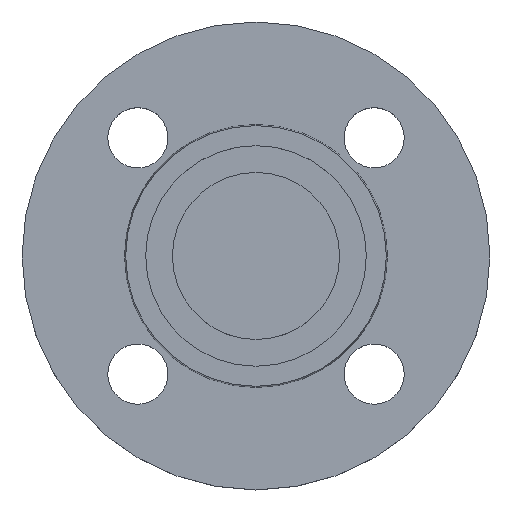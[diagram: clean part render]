
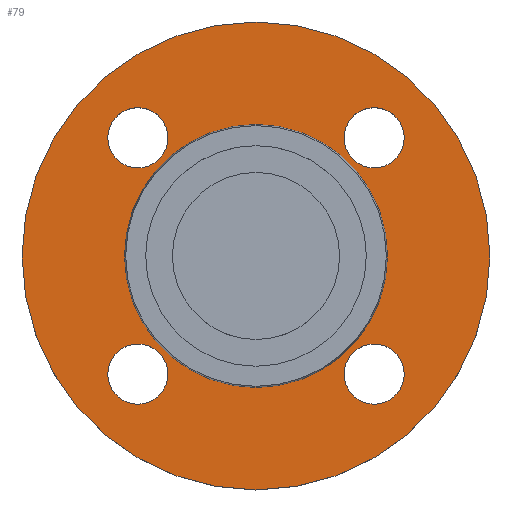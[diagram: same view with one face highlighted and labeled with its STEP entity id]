
A CAD part, top view. The second image highlights one B-rep face of the part: STEP entity #79.
In plain terms, the highlighted planar face has unit normal (0, 0, 1).
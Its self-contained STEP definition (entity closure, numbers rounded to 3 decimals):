
#20 = CARTESIAN_POINT ( 'NONE',  ( 39.353, 0., -2. ) ) ;
#22 = EDGE_LOOP ( 'NONE', ( #582, #94 ) ) ;
#25 = EDGE_CURVE ( 'NONE', #629, #243, #330, .T. ) ;
#26 = CARTESIAN_POINT ( 'NONE',  ( -70., 0., -2. ) ) ;
#28 = CIRCLE ( 'NONE', #434, 9. ) ;
#33 = ORIENTED_EDGE ( 'NONE', *, *, #673, .F. ) ;
#36 = CARTESIAN_POINT ( 'NONE',  ( -35.355, 35.355, -2. ) ) ;
#40 = FACE_BOUND ( 'NONE', #492, .T. ) ;
#47 = CARTESIAN_POINT ( 'NONE',  ( 0., 0., -2. ) ) ;
#58 = VERTEX_POINT ( 'NONE', #319 ) ;
#63 = DIRECTION ( 'NONE',  ( 0., 0., -1. ) ) ;
#66 = EDGE_CURVE ( 'NONE', #549, #600, #28, .T. ) ;
#70 = CIRCLE ( 'NONE', #476, 9. ) ;
#79 = ADVANCED_FACE ( 'NONE', ( #572, #97, #323, #525, #40, #266 ), #478, .T. ) ;
#83 = VERTEX_POINT ( 'NONE', #621 ) ;
#94 = ORIENTED_EDGE ( 'NONE', *, *, #596, .T. ) ;
#95 = DIRECTION ( 'NONE',  ( 0., 0., -1. ) ) ;
#97 = FACE_BOUND ( 'NONE', #353, .T. ) ;
#106 = CARTESIAN_POINT ( 'NONE',  ( -35.355, -35.355, -2. ) ) ;
#110 = EDGE_CURVE ( 'NONE', #462, #554, #395, .T. ) ;
#119 = CARTESIAN_POINT ( 'NONE',  ( -35.355, 35.355, -2. ) ) ;
#129 = VERTEX_POINT ( 'NONE', #531 ) ;
#146 = CIRCLE ( 'NONE', #533, 9. ) ;
#150 = DIRECTION ( 'NONE',  ( 1., 0., 0. ) ) ;
#152 = CARTESIAN_POINT ( 'NONE',  ( 35.355, 35.355, -2. ) ) ;
#156 = CARTESIAN_POINT ( 'NONE',  ( 0., 0., -2. ) ) ;
#158 = AXIS2_PLACEMENT_3D ( 'NONE', #152, #381, #573 ) ;
#160 = CIRCLE ( 'NONE', #161, 9. ) ;
#161 = AXIS2_PLACEMENT_3D ( 'NONE', #427, #616, #150 ) ;
#163 = DIRECTION ( 'NONE',  ( 0., 0., -1. ) ) ;
#169 = ORIENTED_EDGE ( 'NONE', *, *, #651, .T. ) ;
#179 = EDGE_CURVE ( 'NONE', #600, #549, #146, .T. ) ;
#186 = ORIENTED_EDGE ( 'NONE', *, *, #259, .T. ) ;
#198 = CARTESIAN_POINT ( 'NONE',  ( 0., 0., -2. ) ) ;
#199 = ORIENTED_EDGE ( 'NONE', *, *, #25, .T. ) ;
#213 = DIRECTION ( 'NONE',  ( 0., 0., 1. ) ) ;
#226 = CIRCLE ( 'NONE', #236, 9. ) ;
#236 = AXIS2_PLACEMENT_3D ( 'NONE', #106, #332, #532 ) ;
#238 = ORIENTED_EDGE ( 'NONE', *, *, #179, .T. ) ;
#243 = VERTEX_POINT ( 'NONE', #20 ) ;
#246 = CARTESIAN_POINT ( 'NONE',  ( -35.355, -35.355, -2. ) ) ;
#247 = CARTESIAN_POINT ( 'NONE',  ( -26.355, -35.355, -2. ) ) ;
#248 = ORIENTED_EDGE ( 'NONE', *, *, #110, .F. ) ;
#259 = EDGE_CURVE ( 'NONE', #510, #83, #70, .T. ) ;
#263 = DIRECTION ( 'NONE',  ( 0., 0., -1. ) ) ;
#266 = FACE_OUTER_BOUND ( 'NONE', #645, .T. ) ;
#267 = CIRCLE ( 'NONE', #268, 39.353 ) ;
#268 = AXIS2_PLACEMENT_3D ( 'NONE', #47, #278, #482 ) ;
#272 = CARTESIAN_POINT ( 'NONE',  ( -39.353, 0., -2. ) ) ;
#278 = DIRECTION ( 'NONE',  ( 0., 0., -1. ) ) ;
#285 = CIRCLE ( 'NONE', #652, 9. ) ;
#286 = CIRCLE ( 'NONE', #329, 70. ) ;
#293 = DIRECTION ( 'NONE',  ( 1., 0., 0. ) ) ;
#299 = CARTESIAN_POINT ( 'NONE',  ( 70., 0., -2. ) ) ;
#319 = CARTESIAN_POINT ( 'NONE',  ( 26.355, 35.355, -2. ) ) ;
#320 = VERTEX_POINT ( 'NONE', #564 ) ;
#321 = DIRECTION ( 'NONE',  ( 1., 0., 0. ) ) ;
#323 = FACE_BOUND ( 'NONE', #396, .T. ) ;
#329 = AXIS2_PLACEMENT_3D ( 'NONE', #627, #163, #390 ) ;
#330 = CIRCLE ( 'NONE', #386, 39.353 ) ;
#332 = DIRECTION ( 'NONE',  ( 0., 0., -1. ) ) ;
#342 = EDGE_CURVE ( 'NONE', #320, #607, #285, .T. ) ;
#349 = DIRECTION ( 'NONE',  ( 0., 0., -1. ) ) ;
#353 = EDGE_LOOP ( 'NONE', ( #186, #169 ) ) ;
#376 = EDGE_CURVE ( 'NONE', #129, #58, #464, .T. ) ;
#379 = CARTESIAN_POINT ( 'NONE',  ( -26.355, 35.355, -2. ) ) ;
#381 = DIRECTION ( 'NONE',  ( 0., 0., -1. ) ) ;
#385 = DIRECTION ( 'NONE',  ( 0., 0., -1. ) ) ;
#386 = AXIS2_PLACEMENT_3D ( 'NONE', #198, #419, #610 ) ;
#390 = DIRECTION ( 'NONE',  ( -1., 0., 0. ) ) ;
#395 = CIRCLE ( 'NONE', #481, 70. ) ;
#396 = EDGE_LOOP ( 'NONE', ( #238, #653 ) ) ;
#419 = DIRECTION ( 'NONE',  ( 0., 0., -1. ) ) ;
#427 = CARTESIAN_POINT ( 'NONE',  ( 35.355, -35.355, -2. ) ) ;
#430 = CARTESIAN_POINT ( 'NONE',  ( 26.355, -35.355, -2. ) ) ;
#431 = DIRECTION ( 'NONE',  ( 1., 0., 0. ) ) ;
#434 = AXIS2_PLACEMENT_3D ( 'NONE', #36, #263, #474 ) ;
#435 = CIRCLE ( 'NONE', #513, 9. ) ;
#436 = EDGE_CURVE ( 'NONE', #58, #129, #435, .T. ) ;
#444 = ORIENTED_EDGE ( 'NONE', *, *, #376, .T. ) ;
#458 = DIRECTION ( 'NONE',  ( 0., 0., -1. ) ) ;
#462 = VERTEX_POINT ( 'NONE', #299 ) ;
#464 = CIRCLE ( 'NONE', #158, 9. ) ;
#474 = DIRECTION ( 'NONE',  ( 1., 0., 0. ) ) ;
#476 = AXIS2_PLACEMENT_3D ( 'NONE', #246, #458, #647 ) ;
#478 = PLANE ( 'NONE',  #512 ) ;
#481 = AXIS2_PLACEMENT_3D ( 'NONE', #156, #385, #577 ) ;
#482 = DIRECTION ( 'NONE',  ( -1., 0., 0. ) ) ;
#492 = EDGE_LOOP ( 'NONE', ( #199, #636 ) ) ;
#500 = ORIENTED_EDGE ( 'NONE', *, *, #436, .T. ) ;
#510 = VERTEX_POINT ( 'NONE', #247 ) ;
#512 = AXIS2_PLACEMENT_3D ( 'NONE', #668, #213, #431 ) ;
#513 = AXIS2_PLACEMENT_3D ( 'NONE', #542, #63, #293 ) ;
#525 = FACE_BOUND ( 'NONE', #534, .T. ) ;
#531 = CARTESIAN_POINT ( 'NONE',  ( 44.355, 35.355, -2. ) ) ;
#532 = DIRECTION ( 'NONE',  ( 1., 0., 0. ) ) ;
#533 = AXIS2_PLACEMENT_3D ( 'NONE', #119, #349, #541 ) ;
#534 = EDGE_LOOP ( 'NONE', ( #444, #500 ) ) ;
#541 = DIRECTION ( 'NONE',  ( 1., 0., 0. ) ) ;
#542 = CARTESIAN_POINT ( 'NONE',  ( 35.355, 35.355, -2. ) ) ;
#549 = VERTEX_POINT ( 'NONE', #556 ) ;
#554 = VERTEX_POINT ( 'NONE', #26 ) ;
#556 = CARTESIAN_POINT ( 'NONE',  ( -44.355, 35.355, -2. ) ) ;
#564 = CARTESIAN_POINT ( 'NONE',  ( 44.355, -35.355, -2. ) ) ;
#570 = CARTESIAN_POINT ( 'NONE',  ( 35.355, -35.355, -2. ) ) ;
#572 = FACE_BOUND ( 'NONE', #22, .T. ) ;
#573 = DIRECTION ( 'NONE',  ( 1., 0., 0. ) ) ;
#577 = DIRECTION ( 'NONE',  ( -1., 0., 0. ) ) ;
#582 = ORIENTED_EDGE ( 'NONE', *, *, #342, .T. ) ;
#596 = EDGE_CURVE ( 'NONE', #607, #320, #160, .T. ) ;
#600 = VERTEX_POINT ( 'NONE', #379 ) ;
#607 = VERTEX_POINT ( 'NONE', #430 ) ;
#610 = DIRECTION ( 'NONE',  ( -1., 0., 0. ) ) ;
#616 = DIRECTION ( 'NONE',  ( 0., 0., -1. ) ) ;
#621 = CARTESIAN_POINT ( 'NONE',  ( -44.355, -35.355, -2. ) ) ;
#627 = CARTESIAN_POINT ( 'NONE',  ( 0., 0., -2. ) ) ;
#629 = VERTEX_POINT ( 'NONE', #272 ) ;
#636 = ORIENTED_EDGE ( 'NONE', *, *, #657, .T. ) ;
#645 = EDGE_LOOP ( 'NONE', ( #248, #33 ) ) ;
#647 = DIRECTION ( 'NONE',  ( 1., 0., 0. ) ) ;
#651 = EDGE_CURVE ( 'NONE', #83, #510, #226, .T. ) ;
#652 = AXIS2_PLACEMENT_3D ( 'NONE', #570, #95, #321 ) ;
#653 = ORIENTED_EDGE ( 'NONE', *, *, #66, .T. ) ;
#657 = EDGE_CURVE ( 'NONE', #243, #629, #267, .T. ) ;
#668 = CARTESIAN_POINT ( 'NONE',  ( 39.353, 0., -2. ) ) ;
#673 = EDGE_CURVE ( 'NONE', #554, #462, #286, .T. ) ;
